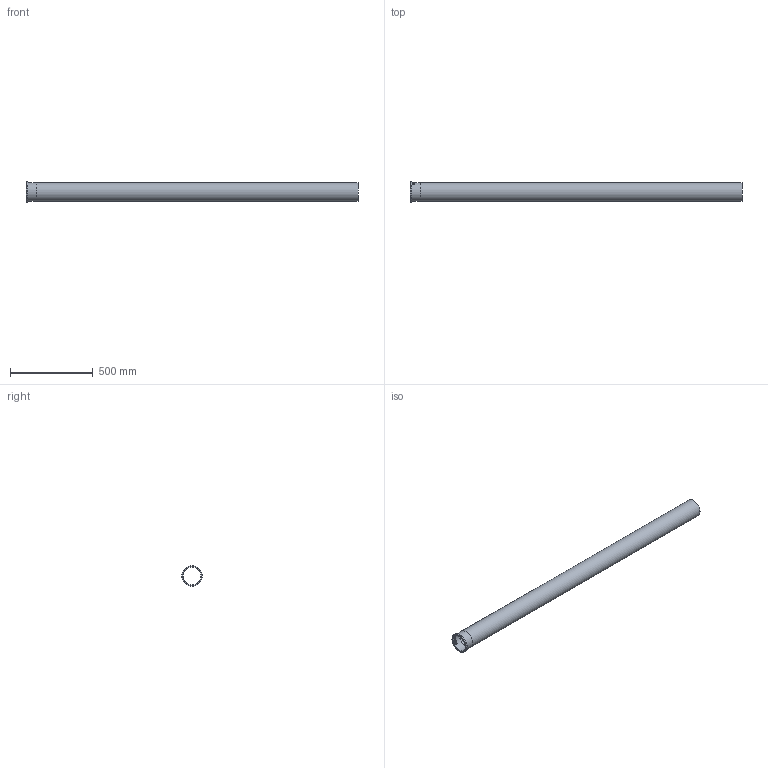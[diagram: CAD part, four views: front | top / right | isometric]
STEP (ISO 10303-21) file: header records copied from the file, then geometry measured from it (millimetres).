
FILE_DESCRIPTION((''),'2;1');
FILE_NAME('I:\WATTS\3D_CAD\3D_CAD_Models\Blucher_Drains\P_StraightPipe\WebsiteFiles\3D\STEP\P4-6.6-316.stp','2009-12-02T14:22:05',('menesek'),(''),'Autodesk Inventor 2010','Autodesk Inventor 2010','');
FILE_SCHEMA(('AUTOMOTIVE_DESIGN { 1 0 10303 214 1 1 1 1 }'));
Length unit declared in the file: inch
Products named in the file (1): P4-6.6-316
Bounding box: 2000 x 122.94 x 122.94 mm (x, y, z)
Volume: 722846.4 mm3; surface area: 1375334.1 mm2
Topology: 1 solids, 1 shells, 109 faces, 285 edges, 190 vertices
Faces by surface type: plane 59, bspline 34, cylinder 16
Full cylindrical faces by diameter (mm): 107.95 x1, 109.982 x1, 111.252 x2, 122.936 x1
Entity records: 13900 total; most frequent: CARTESIAN_POINT 11522, ORIENTED_EDGE 548, DIRECTION 356, EDGE_CURVE 274, VERTEX_POINT 186, EDGE_LOOP 128, AXIS2_PLACEMENT_3D 120, VECTOR 116
